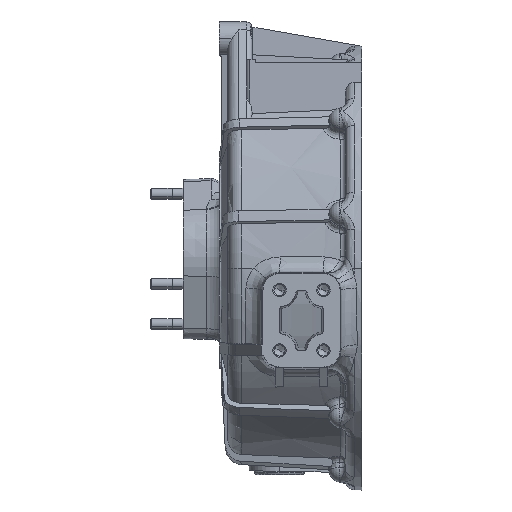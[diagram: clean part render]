
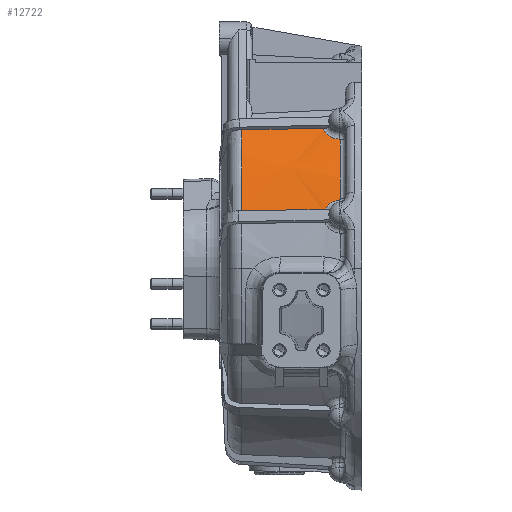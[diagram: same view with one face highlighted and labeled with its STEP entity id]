
A CAD part, front view. The second image highlights one B-rep face of the part: STEP entity #12722.
In plain terms, the highlighted conical face has half-angle 2 degrees and reference radius 179.181 mm.
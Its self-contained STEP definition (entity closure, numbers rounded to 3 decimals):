
#6880=CARTESIAN_POINT('Vertex',(20.546,-127.436,125.959)) ;
#6884=CARTESIAN_POINT('Control Point',(20.546,-127.436,125.959)) ;
#6885=CARTESIAN_POINT('Control Point',(35.471,-127.944,126.187)) ;
#6886=CARTESIAN_POINT('Control Point',(50.396,-128.451,126.415)) ;
#6887=CARTESIAN_POINT('Control Point',(65.321,-128.958,126.643)) ;
#6888=CARTESIAN_POINT('Control Point',(80.245,-129.465,126.87)) ;
#6889=CARTESIAN_POINT('Control Point',(95.17,-129.971,127.098)) ;
#6890=CARTESIAN_POINT('Vertex',(95.17,-129.971,127.098)) ;
#7389=CARTESIAN_POINT('Vertex',(95.665,-174.433,51.244)) ;
#7393=CARTESIAN_POINT('Control Point',(20.546,-171.954,50.374)) ;
#7394=CARTESIAN_POINT('Control Point',(35.57,-172.45,50.548)) ;
#7395=CARTESIAN_POINT('Control Point',(50.594,-172.946,50.722)) ;
#7396=CARTESIAN_POINT('Control Point',(65.618,-173.441,50.896)) ;
#7397=CARTESIAN_POINT('Control Point',(80.641,-173.937,51.07)) ;
#7398=CARTESIAN_POINT('Control Point',(95.665,-174.433,51.244)) ;
#7399=CARTESIAN_POINT('Vertex',(20.546,-171.954,50.374)) ;
#10467=CARTESIAN_POINT('Axis2P3D Location',(20.546,0.,0.)) ;
#12228=CARTESIAN_POINT('Axis2P3D Location',(20.546,0.,0.)) ;
#12577=CARTESIAN_POINT('Vertex',(95.172,-129.982,127.087)) ;
#12581=CARTESIAN_POINT('Control Point',(109.291,-139.455,117.381)) ;
#12582=CARTESIAN_POINT('Control Point',(108.538,-139.381,117.428)) ;
#12583=CARTESIAN_POINT('Control Point',(107.789,-139.279,117.509)) ;
#12584=CARTESIAN_POINT('Control Point',(107.047,-139.149,117.622)) ;
#12585=CARTESIAN_POINT('Control Point',(105.589,-138.835,117.914)) ;
#12586=CARTESIAN_POINT('Control Point',(104.191,-138.415,118.332)) ;
#12587=CARTESIAN_POINT('Control Point',(103.513,-138.179,118.571)) ;
#12588=CARTESIAN_POINT('Control Point',(102.206,-137.66,119.104)) ;
#12589=CARTESIAN_POINT('Control Point',(100.997,-137.047,119.745)) ;
#12590=CARTESIAN_POINT('Control Point',(100.42,-136.717,120.091)) ;
#12591=CARTESIAN_POINT('Control Point',(99.06,-135.845,121.009)) ;
#12592=CARTESIAN_POINT('Control Point',(97.889,-134.838,122.069)) ;
#12593=CARTESIAN_POINT('Control Point',(97.267,-134.193,122.746)) ;
#12594=CARTESIAN_POINT('Control Point',(96.646,-133.398,123.577)) ;
#12595=CARTESIAN_POINT('Control Point',(96.152,-132.569,124.436)) ;
#12596=CARTESIAN_POINT('Control Point',(96.085,-132.452,124.558)) ;
#12597=CARTESIAN_POINT('Control Point',(95.956,-132.215,124.802)) ;
#12598=CARTESIAN_POINT('Control Point',(95.837,-131.978,125.047)) ;
#12599=CARTESIAN_POINT('Control Point',(95.781,-131.859,125.169)) ;
#12600=CARTESIAN_POINT('Control Point',(95.624,-131.511,125.528)) ;
#12601=CARTESIAN_POINT('Control Point',(95.491,-131.165,125.882)) ;
#12602=CARTESIAN_POINT('Control Point',(95.415,-130.941,126.111)) ;
#12603=CARTESIAN_POINT('Control Point',(95.313,-130.601,126.458)) ;
#12604=CARTESIAN_POINT('Control Point',(95.236,-130.288,126.777)) ;
#12605=CARTESIAN_POINT('Control Point',(95.212,-130.18,126.887)) ;
#12606=CARTESIAN_POINT('Control Point',(95.191,-130.077,126.991)) ;
#12607=CARTESIAN_POINT('Control Point',(95.172,-129.982,127.087)) ;
#12608=CARTESIAN_POINT('Vertex',(109.291,-139.455,117.381)) ;
#12650=CARTESIAN_POINT('Control Point',(95.17,-129.971,127.098)) ;
#12651=CARTESIAN_POINT('Control Point',(95.171,-129.974,127.096)) ;
#12652=CARTESIAN_POINT('Control Point',(95.171,-129.976,127.094)) ;
#12653=CARTESIAN_POINT('Control Point',(95.171,-129.978,127.091)) ;
#12654=CARTESIAN_POINT('Control Point',(95.172,-129.98,127.089)) ;
#12655=CARTESIAN_POINT('Control Point',(95.172,-129.982,127.087)) ;
#12664=CARTESIAN_POINT('Control Point',(109.291,-171.382,62.081)) ;
#12665=CARTESIAN_POINT('Control Point',(108.789,-171.385,62.022)) ;
#12666=CARTESIAN_POINT('Control Point',(108.289,-171.394,61.946)) ;
#12667=CARTESIAN_POINT('Control Point',(107.791,-171.41,61.851)) ;
#12668=CARTESIAN_POINT('Control Point',(106.199,-171.482,61.488)) ;
#12669=CARTESIAN_POINT('Control Point',(104.657,-171.621,60.939)) ;
#12670=CARTESIAN_POINT('Control Point',(103.629,-171.748,60.474)) ;
#12671=CARTESIAN_POINT('Control Point',(102.17,-171.979,59.66)) ;
#12672=CARTESIAN_POINT('Control Point',(100.84,-172.266,58.679)) ;
#12673=CARTESIAN_POINT('Control Point',(100.415,-172.366,58.336)) ;
#12674=CARTESIAN_POINT('Control Point',(99.332,-172.647,57.385)) ;
#12675=CARTESIAN_POINT('Control Point',(98.363,-172.964,56.312)) ;
#12676=CARTESIAN_POINT('Control Point',(97.811,-173.174,55.602)) ;
#12677=CARTESIAN_POINT('Control Point',(97.183,-173.452,54.656)) ;
#12678=CARTESIAN_POINT('Control Point',(96.652,-173.741,53.661)) ;
#12679=CARTESIAN_POINT('Control Point',(96.544,-173.802,53.45)) ;
#12680=CARTESIAN_POINT('Control Point',(96.274,-173.963,52.89)) ;
#12681=CARTESIAN_POINT('Control Point',(96.035,-174.127,52.319)) ;
#12682=CARTESIAN_POINT('Control Point',(95.899,-174.229,51.963)) ;
#12683=CARTESIAN_POINT('Control Point',(95.775,-174.331,51.602)) ;
#12684=CARTESIAN_POINT('Control Point',(95.665,-174.433,51.244)) ;
#12685=CARTESIAN_POINT('Vertex',(109.291,-171.382,62.081)) ;
#12689=CARTESIAN_POINT('Control Point',(109.291,-171.382,62.081)) ;
#12690=CARTESIAN_POINT('Control Point',(109.652,-171.381,62.123)) ;
#12691=CARTESIAN_POINT('Control Point',(109.995,-171.319,62.328)) ;
#12692=CARTESIAN_POINT('Control Point',(110.174,-171.202,62.668)) ;
#12693=CARTESIAN_POINT('Control Point',(110.174,-171.079,63.003)) ;
#12694=CARTESIAN_POINT('Vertex',(110.174,-171.079,63.003)) ;
#12697=CARTESIAN_POINT('Axis2P3D Location',(110.174,0.,0.)) ;
#12701=CARTESIAN_POINT('Vertex',(110.174,-140.101,116.657)) ;
#12705=CARTESIAN_POINT('Control Point',(110.174,-140.101,116.657)) ;
#12706=CARTESIAN_POINT('Control Point',(110.174,-139.873,116.931)) ;
#12707=CARTESIAN_POINT('Control Point',(109.996,-139.637,117.203)) ;
#12708=CARTESIAN_POINT('Control Point',(109.652,-139.49,117.359)) ;
#12709=CARTESIAN_POINT('Control Point',(109.291,-139.455,117.381)) ;
#10468=DIRECTION('Axis2P3D Direction',(1.,0.,0.)) ;
#10469=DIRECTION('Axis2P3D XDirection',(0.,0.,-1.)) ;
#12229=DIRECTION('Axis2P3D Direction',(1.,-0.,0.)) ;
#12698=DIRECTION('Axis2P3D Direction',(1.,0.,0.)) ;
#10470=AXIS2_PLACEMENT_3D('Cone Axis2P3D',#10467,#10468,#10469) ;
#12230=AXIS2_PLACEMENT_3D('Circle Axis2P3D',#12228,#12229,$) ;
#12699=AXIS2_PLACEMENT_3D('Circle Axis2P3D',#12697,#12698,$) ;
#12712=ORIENTED_EDGE('',*,*,#6892,.F.) ;
#12713=ORIENTED_EDGE('',*,*,#12232,.T.) ;
#12714=ORIENTED_EDGE('',*,*,#7401,.T.) ;
#12715=ORIENTED_EDGE('',*,*,#12687,.T.) ;
#12716=ORIENTED_EDGE('',*,*,#12696,.T.) ;
#12717=ORIENTED_EDGE('',*,*,#12703,.T.) ;
#12718=ORIENTED_EDGE('',*,*,#12710,.T.) ;
#12719=ORIENTED_EDGE('',*,*,#12610,.T.) ;
#12720=ORIENTED_EDGE('',*,*,#12656,.T.) ;
#12722=ADVANCED_FACE('( 0010.01 ) -|150114-00426 150114-00277|Machined Part',(#12721),#10471,.T.) ;
#6883=B_SPLINE_CURVE_WITH_KNOTS('',5,(#6884,#6885,#6886,#6887,#6888,#6889),.UNSPECIFIED.,.F.,.U.,(6,6),(0.,105.607),.UNSPECIFIED.) ;
#7392=B_SPLINE_CURVE_WITH_KNOTS('',5,(#7393,#7394,#7395,#7396,#7397,#7398),.UNSPECIFIED.,.F.,.U.,(6,6),(0.,106.299),.UNSPECIFIED.) ;
#12580=B_SPLINE_CURVE_WITH_KNOTS('',5,(#12581,#12582,#12583,#12584,#12585,#12586,#12587,#12588,#12589,#12590,#12591,#12592,#12593,#12594,#12595,#12596,#12597,#12598,#12599,#12600,#12601,#12602,#12603,#12604,#12605,#12606,#12607),.UNSPECIFIED.,.F.,.U.,(6,3,3,3,3,3,3,3,6),(32.495,37.094,41.667,46.221,52.95,54.055,55.161,57.303,58.502),.UNSPECIFIED.) ;
#12649=B_SPLINE_CURVE_WITH_KNOTS('',5,(#12650,#12651,#12652,#12653,#12654,#12655),.UNSPECIFIED.,.F.,.U.,(6,6),(88.239,88.266),.UNSPECIFIED.) ;
#12663=B_SPLINE_CURVE_WITH_KNOTS('',5,(#12664,#12665,#12666,#12667,#12668,#12669,#12670,#12671,#12672,#12673,#12674,#12675,#12676,#12677,#12678,#12679,#12680,#12681,#12682,#12683,#12684),.UNSPECIFIED.,.F.,.U.,(6,3,3,3,3,3,6),(32.492,35.556,42.379,45.755,51.301,52.78,55.186),.UNSPECIFIED.) ;
#12688=B_SPLINE_CURVE_WITH_KNOTS('',4,(#12689,#12690,#12691,#12692,#12693),.UNSPECIFIED.,.F.,.U.,(5,5),(0.,6.17),.UNSPECIFIED.) ;
#12704=B_SPLINE_CURVE_WITH_KNOTS('',4,(#12705,#12706,#12707,#12708,#12709),.UNSPECIFIED.,.F.,.U.,(5,5),(0.,6.17),.UNSPECIFIED.) ;
#12231=CIRCLE('generated circle',#12230,179.181) ;
#12700=CIRCLE('generated circle',#12699,182.311) ;
#10471=CONICAL_SURFACE('Cone',#10470,179.181,0.035) ;
#6892=EDGE_CURVE('',#6881,#6891,#6883,.T.) ;
#7401=EDGE_CURVE('',#7400,#7390,#7392,.T.) ;
#12232=EDGE_CURVE('',#6881,#7400,#12231,.T.) ;
#12610=EDGE_CURVE('',#12609,#12578,#12580,.T.) ;
#12656=EDGE_CURVE('',#12578,#6891,#12649,.F.) ;
#12687=EDGE_CURVE('',#7390,#12686,#12663,.F.) ;
#12696=EDGE_CURVE('',#12686,#12695,#12688,.T.) ;
#12703=EDGE_CURVE('',#12695,#12702,#12700,.F.) ;
#12710=EDGE_CURVE('',#12702,#12609,#12704,.T.) ;
#12711=EDGE_LOOP('',(#12712,#12713,#12714,#12715,#12716,#12717,#12718,#12719,#12720)) ;
#12721=FACE_OUTER_BOUND('',#12711,.T.) ;
#6881=VERTEX_POINT('',#6880) ;
#6891=VERTEX_POINT('',#6890) ;
#7390=VERTEX_POINT('',#7389) ;
#7400=VERTEX_POINT('',#7399) ;
#12578=VERTEX_POINT('',#12577) ;
#12609=VERTEX_POINT('',#12608) ;
#12686=VERTEX_POINT('',#12685) ;
#12695=VERTEX_POINT('',#12694) ;
#12702=VERTEX_POINT('',#12701) ;
